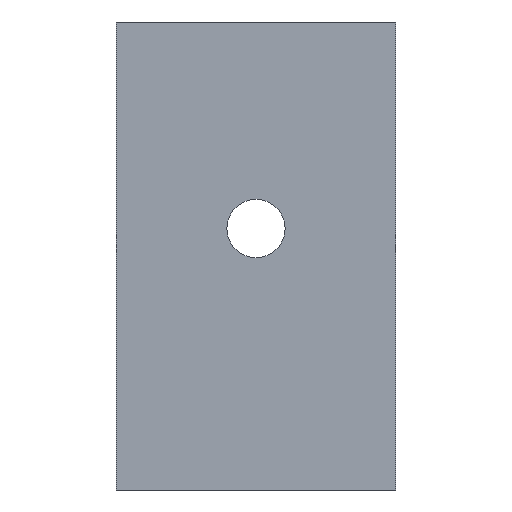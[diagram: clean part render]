
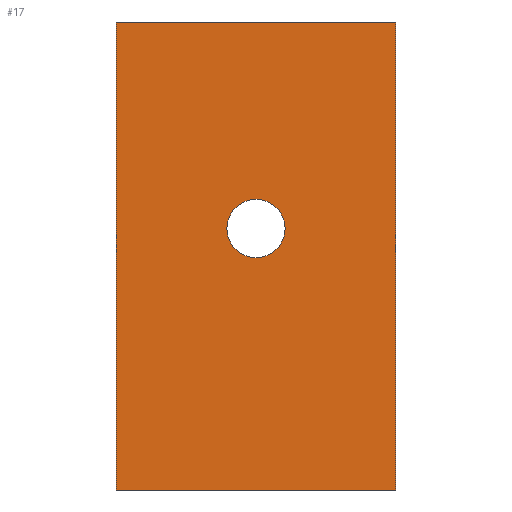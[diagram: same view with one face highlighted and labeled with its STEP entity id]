
A CAD part, left-side view. The second image highlights one B-rep face of the part: STEP entity #17.
In plain terms, the highlighted planar face has unit normal (-1, 0, 0).
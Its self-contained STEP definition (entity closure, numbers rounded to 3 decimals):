
#17 = ADVANCED_FACE('',(#18,#137),#32,.F.);
#18 = FACE_BOUND('',#19,.F.);
#19 = EDGE_LOOP('',(#20,#55,#83,#111));
#20 = ORIENTED_EDGE('',*,*,#21,.F.);
#21 = EDGE_CURVE('',#22,#24,#26,.T.);
#22 = VERTEX_POINT('',#23);
#23 = CARTESIAN_POINT('',(0.,-12.73,0.));
#24 = VERTEX_POINT('',#25);
#25 = CARTESIAN_POINT('',(0.,-12.73,42.6));
#26 = SURFACE_CURVE('',#27,(#31,#43),.PCURVE_S1.);
#27 = LINE('',#28,#29);
#28 = CARTESIAN_POINT('',(0.,-12.73,0.));
#29 = VECTOR('',#30,1.);
#30 = DIRECTION('',(0.,0.,1.));
#31 = PCURVE('',#32,#37);
#32 = PLANE('',#33);
#33 = AXIS2_PLACEMENT_3D('',#34,#35,#36);
#34 = CARTESIAN_POINT('',(0.,-12.73,0.));
#35 = DIRECTION('',(1.,0.,0.));
#36 = DIRECTION('',(0.,0.,1.));
#37 = DEFINITIONAL_REPRESENTATION('',(#38),#42);
#38 = LINE('',#39,#40);
#39 = CARTESIAN_POINT('',(0.,0.));
#40 = VECTOR('',#41,1.);
#41 = DIRECTION('',(1.,0.));
#42 = ( GEOMETRIC_REPRESENTATION_CONTEXT(2) 
PARAMETRIC_REPRESENTATION_CONTEXT() REPRESENTATION_CONTEXT('2D SPACE',''
  ) );
#43 = PCURVE('',#44,#49);
#44 = PLANE('',#45);
#45 = AXIS2_PLACEMENT_3D('',#46,#47,#48);
#46 = CARTESIAN_POINT('',(0.,-12.73,0.));
#47 = DIRECTION('',(0.,1.,0.));
#48 = DIRECTION('',(0.,0.,1.));
#49 = DEFINITIONAL_REPRESENTATION('',(#50),#54);
#50 = LINE('',#51,#52);
#51 = CARTESIAN_POINT('',(0.,0.));
#52 = VECTOR('',#53,1.);
#53 = DIRECTION('',(1.,0.));
#54 = ( GEOMETRIC_REPRESENTATION_CONTEXT(2) 
PARAMETRIC_REPRESENTATION_CONTEXT() REPRESENTATION_CONTEXT('2D SPACE',''
  ) );
#55 = ORIENTED_EDGE('',*,*,#56,.T.);
#56 = EDGE_CURVE('',#22,#57,#59,.T.);
#57 = VERTEX_POINT('',#58);
#58 = CARTESIAN_POINT('',(0.,12.73,0.));
#59 = SURFACE_CURVE('',#60,(#64,#71),.PCURVE_S1.);
#60 = LINE('',#61,#62);
#61 = CARTESIAN_POINT('',(0.,-12.73,0.));
#62 = VECTOR('',#63,1.);
#63 = DIRECTION('',(0.,1.,0.));
#64 = PCURVE('',#32,#65);
#65 = DEFINITIONAL_REPRESENTATION('',(#66),#70);
#66 = LINE('',#67,#68);
#67 = CARTESIAN_POINT('',(0.,0.));
#68 = VECTOR('',#69,1.);
#69 = DIRECTION('',(0.,-1.));
#70 = ( GEOMETRIC_REPRESENTATION_CONTEXT(2) 
PARAMETRIC_REPRESENTATION_CONTEXT() REPRESENTATION_CONTEXT('2D SPACE',''
  ) );
#71 = PCURVE('',#72,#77);
#72 = PLANE('',#73);
#73 = AXIS2_PLACEMENT_3D('',#74,#75,#76);
#74 = CARTESIAN_POINT('',(0.,-12.73,0.));
#75 = DIRECTION('',(0.,0.,1.));
#76 = DIRECTION('',(1.,0.,0.));
#77 = DEFINITIONAL_REPRESENTATION('',(#78),#82);
#78 = LINE('',#79,#80);
#79 = CARTESIAN_POINT('',(0.,0.));
#80 = VECTOR('',#81,1.);
#81 = DIRECTION('',(0.,1.));
#82 = ( GEOMETRIC_REPRESENTATION_CONTEXT(2) 
PARAMETRIC_REPRESENTATION_CONTEXT() REPRESENTATION_CONTEXT('2D SPACE',''
  ) );
#83 = ORIENTED_EDGE('',*,*,#84,.F.);
#84 = EDGE_CURVE('',#85,#57,#87,.T.);
#85 = VERTEX_POINT('',#86);
#86 = CARTESIAN_POINT('',(0.,12.73,42.6));
#87 = SURFACE_CURVE('',#88,(#92,#99),.PCURVE_S1.);
#88 = LINE('',#89,#90);
#89 = CARTESIAN_POINT('',(0.,12.73,42.6));
#90 = VECTOR('',#91,1.);
#91 = DIRECTION('',(0.,0.,-1.));
#92 = PCURVE('',#32,#93);
#93 = DEFINITIONAL_REPRESENTATION('',(#94),#98);
#94 = LINE('',#95,#96);
#95 = CARTESIAN_POINT('',(42.6,-25.46));
#96 = VECTOR('',#97,1.);
#97 = DIRECTION('',(-1.,0.));
#98 = ( GEOMETRIC_REPRESENTATION_CONTEXT(2) 
PARAMETRIC_REPRESENTATION_CONTEXT() REPRESENTATION_CONTEXT('2D SPACE',''
  ) );
#99 = PCURVE('',#100,#105);
#100 = PLANE('',#101);
#101 = AXIS2_PLACEMENT_3D('',#102,#103,#104);
#102 = CARTESIAN_POINT('',(0.,12.73,0.));
#103 = DIRECTION('',(0.,1.,0.));
#104 = DIRECTION('',(0.,0.,1.));
#105 = DEFINITIONAL_REPRESENTATION('',(#106),#110);
#106 = LINE('',#107,#108);
#107 = CARTESIAN_POINT('',(42.6,0.));
#108 = VECTOR('',#109,1.);
#109 = DIRECTION('',(-1.,0.));
#110 = ( GEOMETRIC_REPRESENTATION_CONTEXT(2) 
PARAMETRIC_REPRESENTATION_CONTEXT() REPRESENTATION_CONTEXT('2D SPACE',''
  ) );
#111 = ORIENTED_EDGE('',*,*,#112,.F.);
#112 = EDGE_CURVE('',#24,#85,#113,.T.);
#113 = SURFACE_CURVE('',#114,(#118,#125),.PCURVE_S1.);
#114 = LINE('',#115,#116);
#115 = CARTESIAN_POINT('',(0.,-12.73,42.6));
#116 = VECTOR('',#117,1.);
#117 = DIRECTION('',(0.,1.,0.));
#118 = PCURVE('',#32,#119);
#119 = DEFINITIONAL_REPRESENTATION('',(#120),#124);
#120 = LINE('',#121,#122);
#121 = CARTESIAN_POINT('',(42.6,0.));
#122 = VECTOR('',#123,1.);
#123 = DIRECTION('',(0.,-1.));
#124 = ( GEOMETRIC_REPRESENTATION_CONTEXT(2) 
PARAMETRIC_REPRESENTATION_CONTEXT() REPRESENTATION_CONTEXT('2D SPACE',''
  ) );
#125 = PCURVE('',#126,#131);
#126 = PLANE('',#127);
#127 = AXIS2_PLACEMENT_3D('',#128,#129,#130);
#128 = CARTESIAN_POINT('',(0.,-12.73,42.6));
#129 = DIRECTION('',(0.,0.,1.));
#130 = DIRECTION('',(1.,0.,0.));
#131 = DEFINITIONAL_REPRESENTATION('',(#132),#136);
#132 = LINE('',#133,#134);
#133 = CARTESIAN_POINT('',(0.,0.));
#134 = VECTOR('',#135,1.);
#135 = DIRECTION('',(0.,1.));
#136 = ( GEOMETRIC_REPRESENTATION_CONTEXT(2) 
PARAMETRIC_REPRESENTATION_CONTEXT() REPRESENTATION_CONTEXT('2D SPACE',''
  ) );
#137 = FACE_BOUND('',#138,.F.);
#138 = EDGE_LOOP('',(#139));
#139 = ORIENTED_EDGE('',*,*,#140,.F.);
#140 = EDGE_CURVE('',#141,#141,#143,.T.);
#141 = VERTEX_POINT('',#142);
#142 = CARTESIAN_POINT('',(-0.,2.65,23.8));
#143 = SURFACE_CURVE('',#144,(#149,#156),.PCURVE_S1.);
#144 = CIRCLE('',#145,2.65);
#145 = AXIS2_PLACEMENT_3D('',#146,#147,#148);
#146 = CARTESIAN_POINT('',(0.,0.,23.8));
#147 = DIRECTION('',(1.,0.,0.));
#148 = DIRECTION('',(0.,1.,0.));
#149 = PCURVE('',#32,#150);
#150 = DEFINITIONAL_REPRESENTATION('',(#151),#155);
#151 = CIRCLE('',#152,2.65);
#152 = AXIS2_PLACEMENT_2D('',#153,#154);
#153 = CARTESIAN_POINT('',(23.8,-12.73));
#154 = DIRECTION('',(0.,-1.));
#155 = ( GEOMETRIC_REPRESENTATION_CONTEXT(2) 
PARAMETRIC_REPRESENTATION_CONTEXT() REPRESENTATION_CONTEXT('2D SPACE',''
  ) );
#156 = PCURVE('',#157,#162);
#157 = CYLINDRICAL_SURFACE('',#158,2.65);
#158 = AXIS2_PLACEMENT_3D('',#159,#160,#161);
#159 = CARTESIAN_POINT('',(0.,0.,23.8));
#160 = DIRECTION('',(1.,0.,0.));
#161 = DIRECTION('',(0.,1.,0.));
#162 = DEFINITIONAL_REPRESENTATION('',(#163),#167);
#163 = LINE('',#164,#165);
#164 = CARTESIAN_POINT('',(0.,0.));
#165 = VECTOR('',#166,1.);
#166 = DIRECTION('',(1.,0.));
#167 = ( GEOMETRIC_REPRESENTATION_CONTEXT(2) 
PARAMETRIC_REPRESENTATION_CONTEXT() REPRESENTATION_CONTEXT('2D SPACE',''
  ) );
